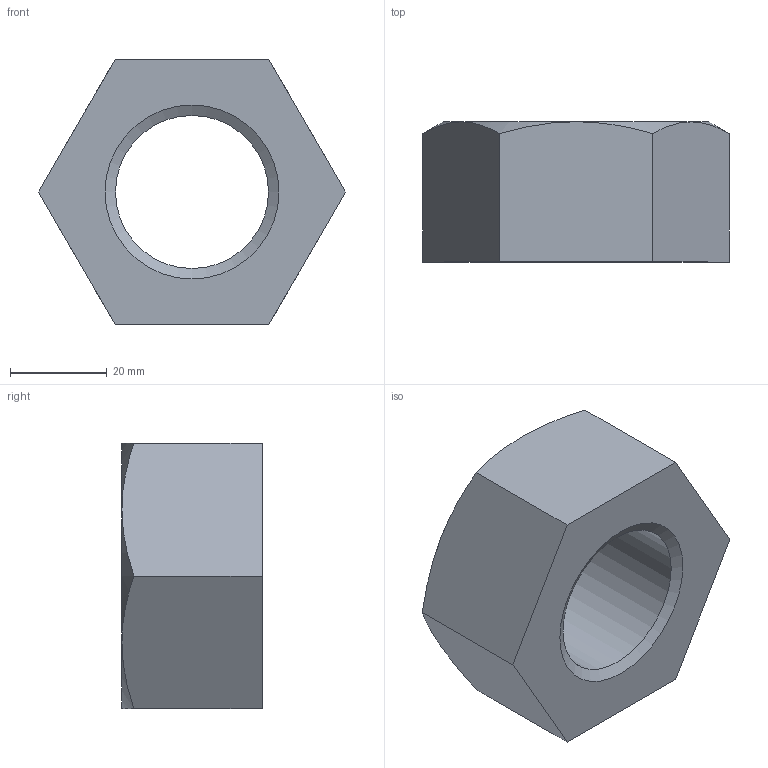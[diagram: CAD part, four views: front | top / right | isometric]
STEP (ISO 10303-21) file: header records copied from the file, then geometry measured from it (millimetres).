
FILE_DESCRIPTION(/* description */ (''),/* implementation_level */ '2;1');
FILE_NAME(/* name */ 'C:\Users\unitec\Desktop\ナット1種 中\M36.stp',/* time_stamp */ '2014-05-08T16:47:41+09:00',/* author */ ('unitec'),/* organization */ (''),/* preprocessor_version */ 'ST-DEVELOPER v15.2',/* originating_system */ 'Autodesk Inventor 2014',/* authorisation */ '');
FILE_SCHEMA (('AUTOMOTIVE_DESIGN { 1 0 10303 214 3 1 1 }'));
Length unit declared in the file: millimetre
Products named in the file (1): M36
Bounding box: 63.51 x 29 x 55 mm (x, y, z)
Volume: 52665.3 mm3; surface area: 11774.2 mm2
Topology: 1 solids, 1 shells, 17 faces, 37 edges, 22 vertices
Faces by surface type: cone 8, plane 8, cylinder 1
Full cylindrical faces by diameter (mm): 31.67 x1
Entity records: 455 total; most frequent: CARTESIAN_POINT 98, ORIENTED_EDGE 68, DIRECTION 68, EDGE_CURVE 34, AXIS2_PLACEMENT_3D 28, EDGE_LOOP 22, VERTEX_POINT 22, ADVANCED_FACE 17
